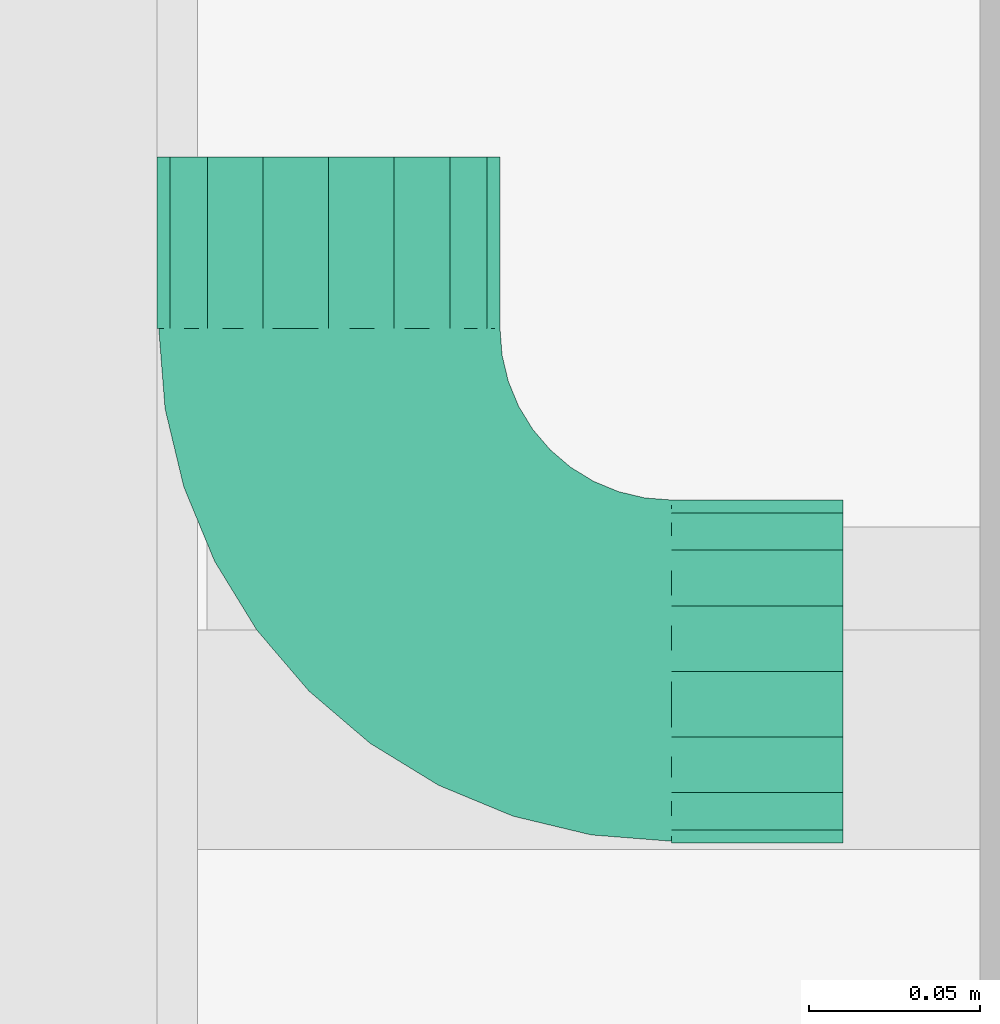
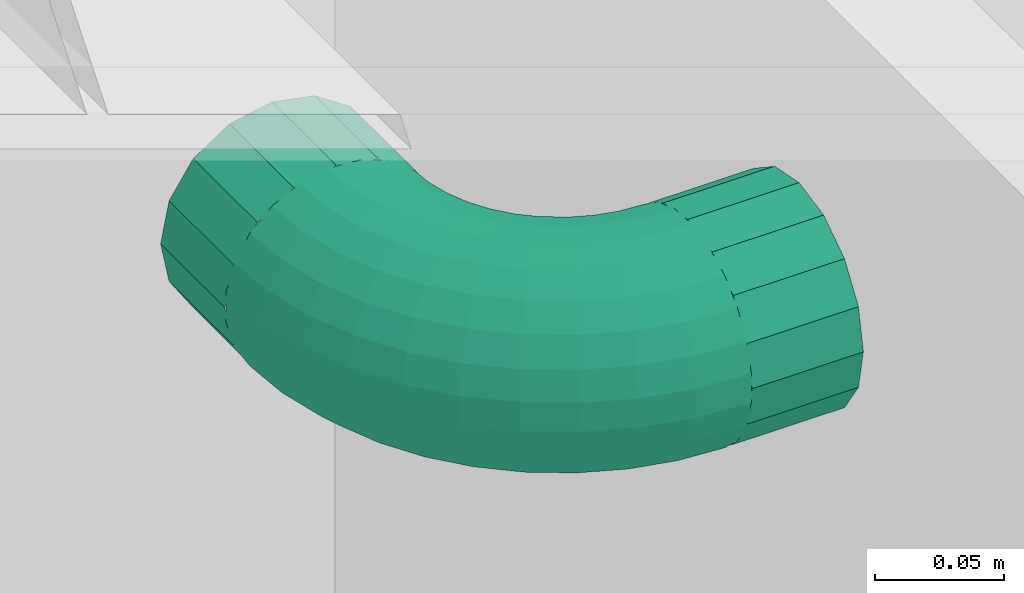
# One storey, part 177 of 183: 1 flow fitting.
"""IFC2X3 building model written with IfcOpenShell, lengths in metres."""

from ifc_helpers import new_model, entity, si_unit, converted_unit, derived_unit, money_unit, direction, frame, origin_with_axes, place, context, subcontext, project, spatial, open_shell, surface_model, material, type_object, element, save


model = new_model("IFC2X3")

# Units and contexts
model_context = context("Model", 3, precision=1e-05, world=origin_with_axes(), true_north=direction((0.0, 1.0)))
body_context = subcontext(model_context, "Body", "Model", "MODEL_VIEW", scale=1.0)
ifc_project = project(units=[si_unit("LENGTHUNIT", "METRE"), si_unit("AREAUNIT", "SQUARE_METRE"), si_unit("VOLUMEUNIT", "CUBIC_METRE"), si_unit("ABSORBEDDOSEUNIT", "GRAY"), si_unit("AMOUNTOFSUBSTANCEUNIT", "MOLE"), si_unit("DOSEEQUIVALENTUNIT", "SIEVERT"), si_unit("ELECTRICCAPACITANCEUNIT", "FARAD"), si_unit("ELECTRICCHARGEUNIT", "COULOMB"), si_unit("ELECTRICCONDUCTANCEUNIT", "SIEMENS"), si_unit("ELECTRICCURRENTUNIT", "AMPERE"), si_unit("ELECTRICRESISTANCEUNIT", "OHM"), si_unit("ELECTRICVOLTAGEUNIT", "VOLT"), si_unit("ENERGYUNIT", "JOULE"), si_unit("FORCEUNIT", "NEWTON"), si_unit("FREQUENCYUNIT", "HERTZ"), si_unit("ILLUMINANCEUNIT", "LUX"), si_unit("INDUCTANCEUNIT", "HENRY"), si_unit("LUMINOUSFLUXUNIT", "LUMEN"), si_unit("LUMINOUSINTENSITYUNIT", "CANDELA"), si_unit("MAGNETICFLUXDENSITYUNIT", "TESLA"), si_unit("MAGNETICFLUXUNIT", "WEBER"), si_unit("MASSUNIT", "GRAM"), converted_unit("PLANEANGLEUNIT", "degree", entity("IfcReal", 0.0174532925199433), si_unit("PLANEANGLEUNIT", "RADIAN"), dimensions=[0, 0, 0, 0, 0, 0, 0]), si_unit("POWERUNIT", "WATT"), si_unit("PRESSUREUNIT", "PASCAL"), si_unit("RADIOACTIVITYUNIT", "BECQUEREL"), si_unit("SOLIDANGLEUNIT", "STERADIAN"), si_unit("THERMODYNAMICTEMPERATUREUNIT", "KELVIN"), si_unit("TIMEUNIT", "SECOND"), derived_unit("ACCELERATIONUNIT", [(si_unit("LENGTHUNIT", "METRE"), 1), (si_unit("TIMEUNIT", "SECOND"), -2)]), derived_unit("ANGULARVELOCITYUNIT", [(converted_unit("PLANEANGLEUNIT", "degree", entity("IfcReal", 0.0174532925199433), si_unit("PLANEANGLEUNIT", "RADIAN"), dimensions=[0, 0, 0, 0, 0, 0, 0]), 1), (si_unit("TIMEUNIT", "SECOND"), -1)]), derived_unit("CURVATUREUNIT", [(converted_unit("PLANEANGLEUNIT", "degree", entity("IfcReal", 0.0174532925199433), si_unit("PLANEANGLEUNIT", "RADIAN"), dimensions=[0, 0, 0, 0, 0, 0, 0]), 1), (si_unit("LENGTHUNIT", "METRE"), -1)]), derived_unit("DYNAMICVISCOSITYUNIT", [(si_unit("PRESSUREUNIT", "PASCAL"), 1), (si_unit("TIMEUNIT", "SECOND"), 1)]), derived_unit("HEATFLUXDENSITYUNIT", [(si_unit("POWERUNIT", "WATT"), 1), (si_unit("LENGTHUNIT", "METRE"), -2)]), derived_unit("HEATINGVALUEUNIT", [(si_unit("ENERGYUNIT", "JOULE"), 1), (si_unit("MASSUNIT", "GRAM"), -1)]), derived_unit("INTEGERCOUNTRATEUNIT", [(si_unit("TIMEUNIT", "SECOND"), -1)]), derived_unit("IONCONCENTRATIONUNIT", [(si_unit("MASSUNIT", "GRAM"), 1), (si_unit("VOLUMEUNIT", "CUBIC_METRE"), -1)]), derived_unit("ISOTHERMALMOISTURECAPACITYUNIT", [(si_unit("VOLUMEUNIT", "CUBIC_METRE"), 1), (si_unit("MASSUNIT", "GRAM"), -1)]), derived_unit("KINEMATICVISCOSITYUNIT", [(si_unit("AREAUNIT", "SQUARE_METRE"), 1), (si_unit("TIMEUNIT", "SECOND"), -1)]), derived_unit("LINEARFORCEUNIT", [(si_unit("FORCEUNIT", "NEWTON"), 1), (si_unit("LENGTHUNIT", "METRE"), -1)]), derived_unit("LINEARMOMENTUNIT", [(si_unit("FORCEUNIT", "NEWTON"), 1), (si_unit("LENGTHUNIT", "METRE"), -1)]), derived_unit("LINEARSTIFFNESSUNIT", [(si_unit("FORCEUNIT", "NEWTON"), 1), (si_unit("LENGTHUNIT", "METRE"), -1)]), derived_unit("LINEARVELOCITYUNIT", [(si_unit("LENGTHUNIT", "METRE"), 1), (si_unit("TIMEUNIT", "SECOND"), -1)]), derived_unit("LUMINOUSINTENSITYDISTRIBUTIONUNIT", [(si_unit("LUMINOUSINTENSITYUNIT", "CANDELA"), 1), (si_unit("LUMINOUSFLUXUNIT", "LUMEN"), -1)]), derived_unit("MASSDENSITYUNIT", [(si_unit("MASSUNIT", "GRAM"), 1), (si_unit("VOLUMEUNIT", "CUBIC_METRE"), -1)]), derived_unit("MASSFLOWRATEUNIT", [(si_unit("MASSUNIT", "GRAM"), 1), (si_unit("TIMEUNIT", "SECOND"), -1)]), derived_unit("MASSPERLENGTHUNIT", [(si_unit("MASSUNIT", "GRAM"), 1), (si_unit("LENGTHUNIT", "METRE"), -1)]), derived_unit("MODULUSOFELASTICITYUNIT", [(si_unit("FORCEUNIT", "NEWTON"), 1), (si_unit("AREAUNIT", "SQUARE_METRE"), -1)]), derived_unit("MODULUSOFLINEARSUBGRADEREACTIONUNIT", [(si_unit("FORCEUNIT", "NEWTON"), 1), (si_unit("LENGTHUNIT", "METRE"), -2)]), derived_unit("MODULUSOFROTATIONALSUBGRADEREACTIONUNIT", [(si_unit("FORCEUNIT", "NEWTON"), 1), (si_unit("LENGTHUNIT", "METRE"), 1)]), derived_unit("MODULUSOFSUBGRADEREACTIONUNIT", [(si_unit("FORCEUNIT", "NEWTON"), 1), (si_unit("VOLUMEUNIT", "CUBIC_METRE"), -1)]), derived_unit("MOISTUREDIFFUSIVITYUNIT", [(si_unit("VOLUMEUNIT", "CUBIC_METRE"), 1), (si_unit("TIMEUNIT", "SECOND"), -1)]), derived_unit("MOLECULARWEIGHTUNIT", [(si_unit("MASSUNIT", "GRAM"), 1), (si_unit("AMOUNTOFSUBSTANCEUNIT", "MOLE"), -1)]), derived_unit("PLANARFORCEUNIT", [(si_unit("FORCEUNIT", "NEWTON"), 1), (si_unit("LENGTHUNIT", "METRE"), -2)]), derived_unit("ROTATIONALFREQUENCYUNIT", [(si_unit("TIMEUNIT", "SECOND"), -1)]), derived_unit("ROTATIONALMASSUNIT", [(si_unit("MASSUNIT", "GRAM"), 1), (si_unit("LENGTHUNIT", "METRE"), 2)]), derived_unit("ROTATIONALSTIFFNESSUNIT", [(si_unit("FORCEUNIT", "NEWTON"), 1), (si_unit("LENGTHUNIT", "METRE"), 1), (converted_unit("PLANEANGLEUNIT", "degree", entity("IfcReal", 0.0174532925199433), si_unit("PLANEANGLEUNIT", "RADIAN"), dimensions=[0, 0, 0, 0, 0, 0, 0]), -1)]), derived_unit("SECTIONAREAINTEGRALUNIT", [(si_unit("LENGTHUNIT", "METRE"), 5)]), derived_unit("SECTIONMODULUSUNIT", [(si_unit("LENGTHUNIT", "METRE"), 3)]), derived_unit("SHEARMODULUSUNIT", [(si_unit("FORCEUNIT", "NEWTON"), 1), (si_unit("AREAUNIT", "SQUARE_METRE"), -1)]), derived_unit("SOUNDPOWERUNIT", [(si_unit("ENERGYUNIT", "JOULE"), 1), (si_unit("TIMEUNIT", "SECOND"), -1)]), derived_unit("SPECIFICHEATCAPACITYUNIT", [(si_unit("FORCEUNIT", "NEWTON"), 1), (si_unit("MASSUNIT", "GRAM"), -1), (si_unit("THERMODYNAMICTEMPERATUREUNIT", "KELVIN"), -1)]), derived_unit("TEMPERATUREGRADIENTUNIT", [(si_unit("THERMODYNAMICTEMPERATUREUNIT", "KELVIN"), 1), (si_unit("LENGTHUNIT", "METRE"), -1)]), derived_unit("THERMALADMITTANCEUNIT", [(si_unit("POWERUNIT", "WATT"), 1), (si_unit("AREAUNIT", "SQUARE_METRE"), -1), (si_unit("THERMODYNAMICTEMPERATUREUNIT", "KELVIN"), -1)]), derived_unit("THERMALCONDUCTANCEUNIT", [(si_unit("POWERUNIT", "WATT"), 1), (si_unit("LENGTHUNIT", "METRE"), -1), (si_unit("THERMODYNAMICTEMPERATUREUNIT", "KELVIN"), -1)]), derived_unit("THERMALEXPANSIONCOEFFICIENTUNIT", [(si_unit("THERMODYNAMICTEMPERATUREUNIT", "KELVIN"), -1)]), derived_unit("THERMALRESISTANCEUNIT", [(si_unit("AREAUNIT", "SQUARE_METRE"), 1), (si_unit("POWERUNIT", "WATT"), -1)]), derived_unit("THERMALTRANSMITTANCEUNIT", [(si_unit("POWERUNIT", "WATT"), 1), (si_unit("AREAUNIT", "SQUARE_METRE"), -1), (si_unit("THERMODYNAMICTEMPERATUREUNIT", "KELVIN"), -1)]), derived_unit("TORQUEUNIT", [(si_unit("FORCEUNIT", "NEWTON"), 1), (si_unit("LENGTHUNIT", "METRE"), 1)]), derived_unit("VAPORPERMEABILITYUNIT", [(si_unit("MASSUNIT", "GRAM"), 1), (si_unit("TIMEUNIT", "SECOND"), -1)]), derived_unit("VOLUMETRICFLOWRATEUNIT", [(si_unit("VOLUMEUNIT", "CUBIC_METRE"), 1), (si_unit("TIMEUNIT", "SECOND"), -1)]), derived_unit("WARPINGCONSTANTUNIT", [(si_unit("LENGTHUNIT", "METRE"), 6)]), derived_unit("WARPINGMOMENTUNIT", [(si_unit("FORCEUNIT", "NEWTON"), 1), (si_unit("LENGTHUNIT", "METRE"), 2)]), money_unit("GBP")], contexts=[model_context])

# Site, building, storey, space
site_placement = place(None, origin_with_axes())
site = spatial("IfcSite", under=ifc_project, at=site_placement, Name="Site", CompositionType="ELEMENT")
building_placement = place(site_placement, origin_with_axes())
building = spatial("IfcBuilding", under=site, at=building_placement, Name="Building01", CompositionType="ELEMENT")
storey_placement = place(building_placement, frame((0.0, 0.0, 5.15), z_axis=(0.0, 0.0, 1.0), x_axis=(1.0, 0.0, 0.0)))
storey = spatial("IfcBuildingStorey", under=building, at=storey_placement, Name="1F", CompositionType="ELEMENT", Elevation=5.15)
space_placement = place(storey_placement, frame((18.239976, 7.549915, 9.81), z_axis=(0.0, 0.0, 1.0), x_axis=(0.0, 1.0, 0.0)))
space = spatial("IfcSpace", under=storey, at=space_placement, Name="corridor (protected)", CompositionType="ELEMENT", InteriorOrExteriorSpace="NOTDEFINED")

# Flow fitting
ifc_material = material(Name="M_BSUK_Ventilation")
duct_fitting_type = type_object("IfcDuctFittingType", Name="M-Roundelbow-DefaultRound", PredefinedType="BEND")
placement = place(building_placement, origin_with_axes())
flow_fitting_placement = place(placement, frame((18.15, 8.069939, 17.28), z_axis=(0.0, -1.0, 0.0), x_axis=(-1.0, 0.0, 0.0)))
element("IfcFlowFitting", 1, at=flow_fitting_placement, inside=space, type_object=duct_fitting_type, material=ifc_material, Name="M-Roundelbow-DefaultRound", ObjectType="M-Roundelbow-DefaultRound", context=body_context, shape_type="SurfaceModel", body=[
    surface_model("IfcShellBasedSurfaceModel", [(0.008112, -0.01349, -0.048784), (0.0, -0.01349, -0.048146), (0.0, 0.0, -0.05), (0.007822, 0.0, -0.050616), (0.016024, -0.01349, -0.050684), (0.015451, 0.0, -0.052447), (0.023541, -0.01349, -0.053798), (0.0227, 0.0, -0.05545), (0.030479, -0.01349, -0.058049), (0.029389, 0.0, -0.059549), (0.036666, -0.01349, -0.063334), (0.035355, 0.0, -0.064645), (0.041951, -0.01349, -0.069521), (0.040451, 0.0, -0.070611), (0.046202, -0.01349, -0.076459), (0.04455, 0.0, -0.0773), (0.049316, -0.01349, -0.083976), (0.047553, 0.0, -0.084549), (0.051216, -0.01349, -0.091888), (0.049384, 0.0, -0.092178), (0.051854, -0.01349, -0.1), (0.05, 0.0, -0.1), (0.00896, -0.025979, -0.043426), (0.0, -0.025979, -0.042721), (0.0177, -0.025979, -0.045524), (0.026004, -0.025979, -0.048964), (0.033668, -0.025979, -0.05366), (0.040502, -0.025979, -0.059498), (0.04634, -0.025979, -0.066332), (0.051036, -0.025979, -0.073996), (0.054476, -0.025979, -0.0823), (0.056574, -0.025979, -0.09104), (0.057279, -0.025979, -0.1), (0.010305, -0.036542, -0.034939), (0.0, -0.036542, -0.034128), (0.020356, -0.036542, -0.037352), (0.029905, -0.036542, -0.041307), (0.038719, -0.036542, -0.046708), (0.046579, -0.036542, -0.053421), (0.053292, -0.036542, -0.061281), (0.058693, -0.036542, -0.070095), (0.062648, -0.036542, -0.079644), (0.065061, -0.036542, -0.089695), (0.065872, -0.036542, -0.1), (0.012045, -0.044394, -0.023951), (0.0, -0.044394, -0.023003), (0.023793, -0.044394, -0.026772), (0.034956, -0.044394, -0.031395), (0.045258, -0.044394, -0.037708), (0.054445, -0.044394, -0.045555), (0.062292, -0.044394, -0.054742), (0.068605, -0.044394, -0.065044), (0.073228, -0.044394, -0.076207), (0.076049, -0.044394, -0.087955), (0.076997, -0.044394, -0.1), (0.014052, -0.048954, -0.011279), (0.0, -0.048954, -0.010173), (0.027758, -0.048954, -0.014569), (0.040781, -0.048954, -0.019963), (0.052799, -0.048954, -0.027328), (0.063517, -0.048954, -0.036483), (0.072672, -0.048954, -0.047201), (0.080037, -0.048954, -0.059219), (0.085431, -0.048954, -0.072242), (0.088721, -0.048954, -0.085948), (0.089827, -0.048954, -0.1), (0.016177, -0.049883, 0.002139), (0.0, -0.049883, 0.003412), (0.031956, -0.049883, -0.001649), (0.046948, -0.049883, -0.007859), (0.060784, -0.049883, -0.016338), (0.073123, -0.049883, -0.026877), (0.083662, -0.049883, -0.039216), (0.092141, -0.049883, -0.053052), (0.098351, -0.049883, -0.068044), (0.102139, -0.049883, -0.083823), (0.103412, -0.049883, -0.1), (0.018263, -0.047113, 0.015307), (0.0, -0.047113, 0.016744), (0.036076, -0.047113, 0.01103), (0.053001, -0.047113, 0.00402), (0.06862, -0.047113, -0.005552), (0.08255, -0.047113, -0.01745), (0.094448, -0.047113, -0.03138), (0.10402, -0.047113, -0.046999), (0.11103, -0.047113, -0.063924), (0.115307, -0.047113, -0.081737), (0.116744, -0.047113, -0.1), (0.020154, -0.040848, 0.027248), (0.0, -0.040848, 0.028834), (0.039812, -0.040848, 0.022528), (0.058489, -0.040848, 0.014792), (0.075727, -0.040848, 0.004229), (0.091099, -0.040848, -0.008901), (0.104229, -0.040848, -0.024273), (0.114792, -0.040848, -0.041511), (0.122528, -0.040848, -0.060188), (0.127248, -0.040848, -0.079846), (0.128834, -0.040848, -0.1), (0.021711, -0.031554, 0.037077), (0.0, -0.031554, 0.038786), (0.042887, -0.031554, 0.031993), (0.063007, -0.031554, 0.023659), (0.081576, -0.031554, 0.01228), (0.098136, -0.031554, -0.001864), (0.11228, -0.031554, -0.018424), (0.123659, -0.031554, -0.036993), (0.131993, -0.031554, -0.057113), (0.137077, -0.031554, -0.078289), (0.138786, -0.031554, -0.1), (0.022818, -0.01992, 0.044065), (0.0, -0.01992, 0.045861), (0.045073, -0.01992, 0.038722), (0.066219, -0.01992, 0.029963), (0.085735, -0.01992, 0.018004), (0.103139, -0.01992, 0.003139), (0.118004, -0.01992, -0.014265), (0.129963, -0.01992, -0.033781), (0.138722, -0.01992, -0.054927), (0.144065, -0.01992, -0.077182), (0.145861, -0.01992, -0.1), (0.023392, -0.006808, 0.047693), (0.0, -0.006808, 0.049534), (0.046209, -0.006808, 0.042216), (0.067887, -0.006808, 0.033236), (0.087894, -0.006808, 0.020976), (0.105737, -0.006808, 0.005737), (0.120976, -0.006808, -0.012106), (0.133236, -0.006808, -0.032113), (0.142216, -0.006808, -0.053791), (0.147693, -0.006808, -0.076608), (0.149534, -0.006808, -0.1), (0.023392, 0.006808, 0.047693), (0.0, 0.006808, 0.049534), (0.046209, 0.006808, 0.042216), (0.067887, 0.006808, 0.033236), (0.087894, 0.006808, 0.020976), (0.105737, 0.006808, 0.005737), (0.120976, 0.006808, -0.012106), (0.133236, 0.006808, -0.032113), (0.142216, 0.006808, -0.053791), (0.147693, 0.006808, -0.076608), (0.149534, 0.006808, -0.1), (0.022818, 0.01992, 0.044065), (0.0, 0.01992, 0.045861), (0.045073, 0.01992, 0.038722), (0.066219, 0.01992, 0.029963), (0.085735, 0.01992, 0.018004), (0.103139, 0.01992, 0.003139), (0.118004, 0.01992, -0.014265), (0.129963, 0.01992, -0.033781), (0.138722, 0.01992, -0.054927), (0.144065, 0.01992, -0.077182), (0.145861, 0.01992, -0.1), (0.021711, 0.031554, 0.037077), (0.0, 0.031554, 0.038786), (0.042887, 0.031554, 0.031993), (0.063007, 0.031554, 0.023659), (0.081576, 0.031554, 0.01228), (0.098136, 0.031554, -0.001864), (0.11228, 0.031554, -0.018424), (0.123659, 0.031554, -0.036993), (0.131993, 0.031554, -0.057113), (0.137077, 0.031554, -0.078289), (0.138786, 0.031554, -0.1), (0.020154, 0.040848, 0.027248), (0.0, 0.040848, 0.028834), (0.039812, 0.040848, 0.022528), (0.058489, 0.040848, 0.014792), (0.075727, 0.040848, 0.004229), (0.091099, 0.040848, -0.008901), (0.104229, 0.040848, -0.024273), (0.114792, 0.040848, -0.041511), (0.122528, 0.040848, -0.060188), (0.127248, 0.040848, -0.079846), (0.128834, 0.040848, -0.1), (0.018263, 0.047113, 0.015307), (0.0, 0.047113, 0.016744), (0.036076, 0.047113, 0.01103), (0.053001, 0.047113, 0.00402), (0.06862, 0.047113, -0.005552), (0.08255, 0.047113, -0.01745), (0.094448, 0.047113, -0.03138), (0.10402, 0.047113, -0.046999), (0.11103, 0.047113, -0.063924), (0.115307, 0.047113, -0.081737), (0.116744, 0.047113, -0.1), (0.016177, 0.049883, 0.002139), (0.0, 0.049883, 0.003412), (0.031956, 0.049883, -0.001649), (0.046948, 0.049883, -0.007859), (0.060784, 0.049883, -0.016338), (0.073123, 0.049883, -0.026877), (0.083662, 0.049883, -0.039216), (0.092141, 0.049883, -0.053052), (0.098351, 0.049883, -0.068044), (0.102139, 0.049883, -0.083823), (0.103412, 0.049883, -0.1), (0.014052, 0.048954, -0.011279), (0.0, 0.048954, -0.010173), (0.027758, 0.048954, -0.014569), (0.040781, 0.048954, -0.019963), (0.052799, 0.048954, -0.027328), (0.063517, 0.048954, -0.036483), (0.072672, 0.048954, -0.047201), (0.080037, 0.048954, -0.059219), (0.085431, 0.048954, -0.072242), (0.088721, 0.048954, -0.085948), (0.089827, 0.048954, -0.1), (0.012045, 0.044394, -0.023951), (0.0, 0.044394, -0.023003), (0.023793, 0.044394, -0.026772), (0.034956, 0.044394, -0.031395), (0.045258, 0.044394, -0.037708), (0.054445, 0.044394, -0.045555), (0.062292, 0.044394, -0.054742), (0.068605, 0.044394, -0.065044), (0.073228, 0.044394, -0.076207), (0.076049, 0.044394, -0.087955), (0.076997, 0.044394, -0.1), (0.010305, 0.036542, -0.034939), (0.0, 0.036542, -0.034128), (0.020356, 0.036542, -0.037352), (0.029905, 0.036542, -0.041307), (0.038719, 0.036542, -0.046708), (0.046579, 0.036542, -0.053421), (0.053292, 0.036542, -0.061281), (0.058693, 0.036542, -0.070095), (0.062648, 0.036542, -0.079644), (0.065061, 0.036542, -0.089695), (0.065872, 0.036542, -0.1), (0.00896, 0.025979, -0.043426), (0.0, 0.025979, -0.042721), (0.0177, 0.025979, -0.045524), (0.026004, 0.025979, -0.048964), (0.033668, 0.025979, -0.05366), (0.040502, 0.025979, -0.059498), (0.04634, 0.025979, -0.066332), (0.051036, 0.025979, -0.073996), (0.054476, 0.025979, -0.0823), (0.056574, 0.025979, -0.09104), (0.057279, 0.025979, -0.1), (0.008112, 0.01349, -0.048784), (0.0, 0.01349, -0.048146), (0.016024, 0.01349, -0.050684), (0.023541, 0.01349, -0.053798), (0.030479, 0.01349, -0.058049), (0.036666, 0.01349, -0.063334), (0.041951, 0.01349, -0.069521), (0.046202, 0.01349, -0.076459), (0.049316, 0.01349, -0.083976), (0.051216, 0.01349, -0.091888), (0.051854, 0.01349, -0.1), (-0.05, 0.0, -0.05), (0.0, -0.019134, -0.046194), (-0.05, -0.019134, -0.046194), (0.0, -0.035355, -0.035355), (-0.05, -0.035355, -0.035355), (0.0, -0.046194, -0.019134), (-0.05, -0.046194, -0.019134), (0.0, -0.05, 0.0), (-0.05, -0.05, 0.0), (0.0, -0.046194, 0.019134), (-0.05, -0.046194, 0.019134), (0.0, -0.035355, 0.035355), (-0.05, -0.035355, 0.035355), (0.0, -0.019134, 0.046194), (-0.05, -0.019134, 0.046194), (0.0, 0.0, 0.05), (-0.05, 0.0, 0.05), (0.0, 0.019134, 0.046194), (-0.05, 0.019134, 0.046194), (0.0, 0.035355, 0.035355), (-0.05, 0.035355, 0.035355), (0.0, 0.046194, 0.019134), (-0.05, 0.046194, 0.019134), (0.0, 0.05, 0.0), (-0.05, 0.05, 0.0), (0.0, 0.046194, -0.019134), (-0.05, 0.046194, -0.019134), (0.0, 0.035355, -0.035355), (-0.05, 0.035355, -0.035355), (0.0, 0.019134, -0.046194), (-0.05, 0.019134, -0.046194), (0.05, 0.0, -0.15), (0.053806, 0.019134, -0.1), (0.053806, 0.019134, -0.15), (0.064645, 0.035355, -0.1), (0.064645, 0.035355, -0.15), (0.080866, 0.046194, -0.1), (0.080866, 0.046194, -0.15), (0.1, 0.05, -0.1), (0.1, 0.05, -0.15), (0.119134, 0.046194, -0.1), (0.119134, 0.046194, -0.15), (0.135355, 0.035355, -0.1), (0.135355, 0.035355, -0.15), (0.146194, 0.019134, -0.1), (0.146194, 0.019134, -0.15), (0.15, 0.0, -0.1), (0.15, 0.0, -0.15), (0.146194, -0.019134, -0.1), (0.146194, -0.019134, -0.15), (0.135355, -0.035355, -0.1), (0.135355, -0.035355, -0.15), (0.119134, -0.046194, -0.1), (0.119134, -0.046194, -0.15), (0.1, -0.05, -0.1), (0.1, -0.05, -0.15), (0.080866, -0.046194, -0.1), (0.080866, -0.046194, -0.15), (0.064645, -0.035355, -0.1), (0.064645, -0.035355, -0.15), (0.053806, -0.019134, -0.1), (0.053806, -0.019134, -0.15)], [open_shell([[[0, 1, 2, 3]], [[4, 0, 3, 5]], [[6, 4, 5, 7]], [[8, 6, 7, 9]], [[10, 8, 9, 11]], [[12, 10, 11, 13]], [[14, 12, 13, 15]], [[16, 14, 15, 17]], [[18, 16, 17, 19]], [[20, 18, 19, 21]], [[22, 23, 1, 0]], [[24, 22, 0, 4]], [[25, 24, 4, 6]], [[26, 25, 6, 8]], [[27, 26, 8, 10]], [[28, 27, 10, 12]], [[29, 28, 12, 14]], [[30, 29, 14, 16]], [[31, 30, 16, 18]], [[32, 31, 18, 20]], [[33, 34, 23, 22]], [[35, 33, 22, 24]], [[36, 35, 24, 25]], [[37, 36, 25, 26]], [[38, 37, 26, 27]], [[39, 38, 27, 28]], [[40, 39, 28, 29]], [[41, 40, 29, 30]], [[42, 41, 30, 31]], [[43, 42, 31, 32]], [[44, 45, 34, 33]], [[46, 44, 33, 35]], [[47, 46, 35, 36]], [[48, 47, 36, 37]], [[49, 48, 37, 38]], [[50, 49, 38, 39]], [[51, 50, 39, 40]], [[52, 51, 40, 41]], [[53, 52, 41, 42]], [[54, 53, 42, 43]], [[55, 56, 45, 44]], [[57, 55, 44, 46]], [[58, 57, 46, 47]], [[59, 58, 47, 48]], [[60, 59, 48, 49]], [[61, 60, 49, 50]], [[62, 61, 50, 51]], [[63, 62, 51, 52]], [[64, 63, 52, 53]], [[65, 64, 53, 54]], [[66, 67, 56, 55]], [[68, 66, 55, 57]], [[69, 68, 57, 58]], [[70, 69, 58, 59]], [[71, 70, 59, 60]], [[72, 71, 60, 61]], [[73, 72, 61, 62]], [[74, 73, 62, 63]], [[75, 74, 63, 64]], [[76, 75, 64, 65]], [[77, 78, 67, 66]], [[79, 77, 66, 68]], [[80, 79, 68, 69]], [[81, 80, 69, 70]], [[82, 81, 70, 71]], [[83, 82, 71, 72]], [[84, 83, 72, 73]], [[85, 84, 73, 74]], [[86, 85, 74, 75]], [[87, 86, 75, 76]], [[88, 89, 78, 77]], [[90, 88, 77, 79]], [[91, 90, 79, 80]], [[92, 91, 80, 81]], [[93, 92, 81, 82]], [[94, 93, 82, 83]], [[95, 94, 83, 84]], [[96, 95, 84, 85]], [[97, 96, 85, 86]], [[98, 97, 86, 87]], [[99, 100, 89, 88]], [[101, 99, 88, 90]], [[102, 101, 90, 91]], [[103, 102, 91, 92]], [[104, 103, 92, 93]], [[105, 104, 93, 94]], [[106, 105, 94, 95]], [[107, 106, 95, 96]], [[108, 107, 96, 97]], [[109, 108, 97, 98]], [[110, 111, 100, 99]], [[112, 110, 99, 101]], [[113, 112, 101, 102]], [[114, 113, 102, 103]], [[115, 114, 103, 104]], [[116, 115, 104, 105]], [[117, 116, 105, 106]], [[118, 117, 106, 107]], [[119, 118, 107, 108]], [[120, 119, 108, 109]], [[121, 122, 111, 110]], [[123, 121, 110, 112]], [[124, 123, 112, 113]], [[125, 124, 113, 114]], [[126, 125, 114, 115]], [[127, 126, 115, 116]], [[128, 127, 116, 117]], [[129, 128, 117, 118]], [[130, 129, 118, 119]], [[131, 130, 119, 120]], [[132, 133, 122, 121]], [[134, 132, 121, 123]], [[135, 134, 123, 124]], [[136, 135, 124, 125]], [[137, 136, 125, 126]], [[138, 137, 126, 127]], [[139, 138, 127, 128]], [[140, 139, 128, 129]], [[141, 140, 129, 130]], [[142, 141, 130, 131]], [[143, 144, 133, 132]], [[145, 143, 132, 134]], [[146, 145, 134, 135]], [[147, 146, 135, 136]], [[148, 147, 136, 137]], [[149, 148, 137, 138]], [[150, 149, 138, 139]], [[151, 150, 139, 140]], [[152, 151, 140, 141]], [[153, 152, 141, 142]], [[154, 155, 144, 143]], [[156, 154, 143, 145]], [[157, 156, 145, 146]], [[158, 157, 146, 147]], [[159, 158, 147, 148]], [[160, 159, 148, 149]], [[161, 160, 149, 150]], [[162, 161, 150, 151]], [[163, 162, 151, 152]], [[164, 163, 152, 153]], [[165, 166, 155, 154]], [[167, 165, 154, 156]], [[168, 167, 156, 157]], [[169, 168, 157, 158]], [[170, 169, 158, 159]], [[171, 170, 159, 160]], [[172, 171, 160, 161]], [[173, 172, 161, 162]], [[174, 173, 162, 163]], [[175, 174, 163, 164]], [[176, 177, 166, 165]], [[178, 176, 165, 167]], [[179, 178, 167, 168]], [[180, 179, 168, 169]], [[181, 180, 169, 170]], [[182, 181, 170, 171]], [[183, 182, 171, 172]], [[184, 183, 172, 173]], [[185, 184, 173, 174]], [[186, 185, 174, 175]], [[187, 188, 177, 176]], [[189, 187, 176, 178]], [[190, 189, 178, 179]], [[191, 190, 179, 180]], [[192, 191, 180, 181]], [[193, 192, 181, 182]], [[194, 193, 182, 183]], [[195, 194, 183, 184]], [[196, 195, 184, 185]], [[197, 196, 185, 186]], [[198, 199, 188, 187]], [[200, 198, 187, 189]], [[201, 200, 189, 190]], [[202, 201, 190, 191]], [[203, 202, 191, 192]], [[204, 203, 192, 193]], [[205, 204, 193, 194]], [[206, 205, 194, 195]], [[207, 206, 195, 196]], [[208, 207, 196, 197]], [[209, 210, 199, 198]], [[211, 209, 198, 200]], [[212, 211, 200, 201]], [[213, 212, 201, 202]], [[214, 213, 202, 203]], [[215, 214, 203, 204]], [[216, 215, 204, 205]], [[217, 216, 205, 206]], [[218, 217, 206, 207]], [[219, 218, 207, 208]], [[220, 221, 210, 209]], [[222, 220, 209, 211]], [[223, 222, 211, 212]], [[224, 223, 212, 213]], [[225, 224, 213, 214]], [[226, 225, 214, 215]], [[227, 226, 215, 216]], [[228, 227, 216, 217]], [[229, 228, 217, 218]], [[230, 229, 218, 219]], [[231, 232, 221, 220]], [[233, 231, 220, 222]], [[234, 233, 222, 223]], [[235, 234, 223, 224]], [[236, 235, 224, 225]], [[237, 236, 225, 226]], [[238, 237, 226, 227]], [[239, 238, 227, 228]], [[240, 239, 228, 229]], [[241, 240, 229, 230]], [[242, 243, 232, 231]], [[244, 242, 231, 233]], [[245, 244, 233, 234]], [[246, 245, 234, 235]], [[247, 246, 235, 236]], [[248, 247, 236, 237]], [[249, 248, 237, 238]], [[250, 249, 238, 239]], [[251, 250, 239, 240]], [[252, 251, 240, 241]], [[3, 2, 243, 242]], [[5, 3, 242, 244]], [[7, 5, 244, 245]], [[9, 7, 245, 246]], [[11, 9, 246, 247]], [[13, 11, 247, 248]], [[15, 13, 248, 249]], [[17, 15, 249, 250]], [[19, 17, 250, 251]], [[21, 19, 251, 252]], [[253, 2, 254, 255]], [[255, 254, 256, 257]], [[257, 256, 258, 259]], [[259, 258, 260, 261]], [[261, 260, 262, 263]], [[263, 262, 264, 265]], [[265, 264, 266, 267]], [[267, 266, 268, 269]], [[269, 268, 270, 271]], [[271, 270, 272, 273]], [[273, 272, 274, 275]], [[275, 274, 276, 277]], [[277, 276, 278, 279]], [[279, 278, 280, 281]], [[281, 280, 282, 283]], [[283, 282, 2, 253]], [[284, 21, 285, 286]], [[286, 285, 287, 288]], [[288, 287, 289, 290]], [[290, 289, 291, 292]], [[292, 291, 293, 294]], [[294, 293, 295, 296]], [[296, 295, 297, 298]], [[298, 297, 299, 300]], [[300, 299, 301, 302]], [[302, 301, 303, 304]], [[304, 303, 305, 306]], [[306, 305, 307, 308]], [[308, 307, 309, 310]], [[310, 309, 311, 312]], [[312, 311, 313, 314]], [[314, 313, 21, 284]]])]),
])

save(model, "model.ifc")
